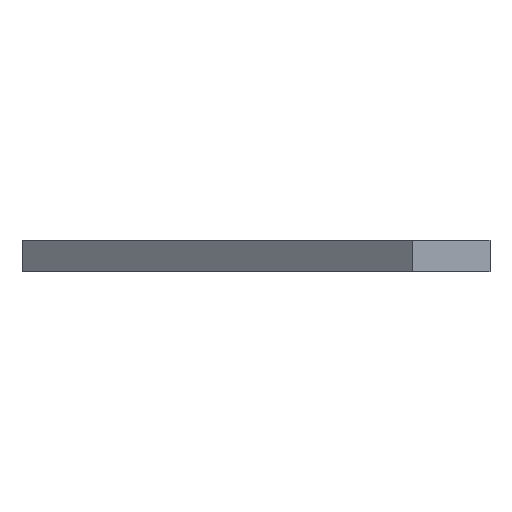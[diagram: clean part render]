
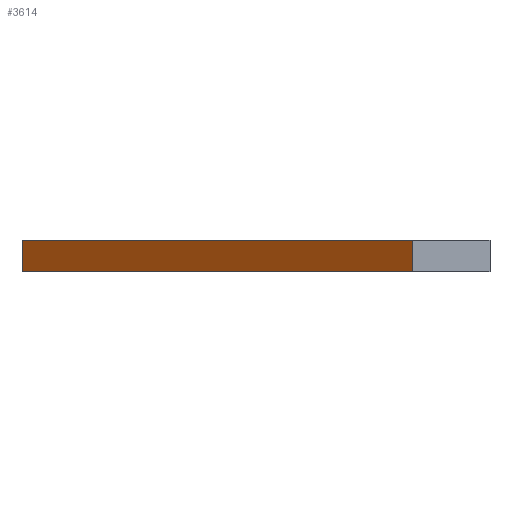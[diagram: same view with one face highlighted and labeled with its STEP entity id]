
A CAD part, left-side view. The second image highlights one B-rep face of the part: STEP entity #3614.
In plain terms, the highlighted planar face has unit normal (-0.768, 0.64, 0).
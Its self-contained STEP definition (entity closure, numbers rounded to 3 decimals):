
#59 = CARTESIAN_POINT ( 'NONE',  ( -11.343, 9.453, 10. ) ) ;
#121 = LINE ( 'NONE', #478, #2906 ) ;
#261 = CARTESIAN_POINT ( 'NONE',  ( -11.343, 9.453, 0. ) ) ;
#478 = CARTESIAN_POINT ( 'NONE',  ( -11.343, 9.453, 10. ) ) ;
#496 = CARTESIAN_POINT ( 'NONE',  ( 1.294, 24.617, 10. ) ) ;
#615 = CARTESIAN_POINT ( 'NONE',  ( 1.294, 24.617, 0. ) ) ;
#778 = VERTEX_POINT ( 'NONE', #2381 ) ;
#796 = VECTOR ( 'NONE', #2749, 1000. ) ;
#924 = LINE ( 'NONE', #1841, #796 ) ;
#954 = CARTESIAN_POINT ( 'NONE',  ( 104.743, 148.75, 10. ) ) ;
#965 = DIRECTION ( 'NONE',  ( -0.768, 0.64, 0. ) ) ;
#998 = DIRECTION ( 'NONE',  ( -0.64, -0.768, 0. ) ) ;
#1042 = PLANE ( 'NONE',  #3678 ) ;
#1056 = EDGE_CURVE ( 'NONE', #1823, #2869, #121, .T. ) ;
#1250 = EDGE_CURVE ( 'NONE', #2869, #778, #3581, .T. ) ;
#1466 = VERTEX_POINT ( 'NONE', #615 ) ;
#1657 = DIRECTION ( 'NONE',  ( 0.64, 0.768, 0. ) ) ;
#1696 = DIRECTION ( 'NONE',  ( 0.64, 0.768, 0. ) ) ;
#1779 = CARTESIAN_POINT ( 'NONE',  ( 104.743, 148.75, 10. ) ) ;
#1823 = VERTEX_POINT ( 'NONE', #496 ) ;
#1841 = CARTESIAN_POINT ( 'NONE',  ( 1.294, 24.617, 10. ) ) ;
#1898 = EDGE_CURVE ( 'NONE', #1466, #778, #2644, .T. ) ;
#1986 = EDGE_CURVE ( 'NONE', #1823, #1466, #924, .T. ) ;
#2127 = VECTOR ( 'NONE', #1696, 1000. ) ;
#2381 = CARTESIAN_POINT ( 'NONE',  ( 104.743, 148.75, 0. ) ) ;
#2644 = LINE ( 'NONE', #261, #2127 ) ;
#2707 = ORIENTED_EDGE ( 'NONE', *, *, #1898, .F. ) ;
#2749 = DIRECTION ( 'NONE',  ( 0., 0., -1. ) ) ;
#2869 = VERTEX_POINT ( 'NONE', #954 ) ;
#2906 = VECTOR ( 'NONE', #1657, 1000. ) ;
#3108 = FACE_OUTER_BOUND ( 'NONE', #3426, .T. ) ;
#3285 = DIRECTION ( 'NONE',  ( 0., 0., -1. ) ) ;
#3307 = ORIENTED_EDGE ( 'NONE', *, *, #1250, .T. ) ;
#3426 = EDGE_LOOP ( 'NONE', ( #2707, #3433, #3451, #3307 ) ) ;
#3433 = ORIENTED_EDGE ( 'NONE', *, *, #1986, .F. ) ;
#3451 = ORIENTED_EDGE ( 'NONE', *, *, #1056, .T. ) ;
#3581 = LINE ( 'NONE', #1779, #3732 ) ;
#3614 = ADVANCED_FACE ( 'NONE', ( #3108 ), #1042, .T. ) ;
#3678 = AXIS2_PLACEMENT_3D ( 'NONE', #59, #965, #998 ) ;
#3732 = VECTOR ( 'NONE', #3285, 1000. ) ;
